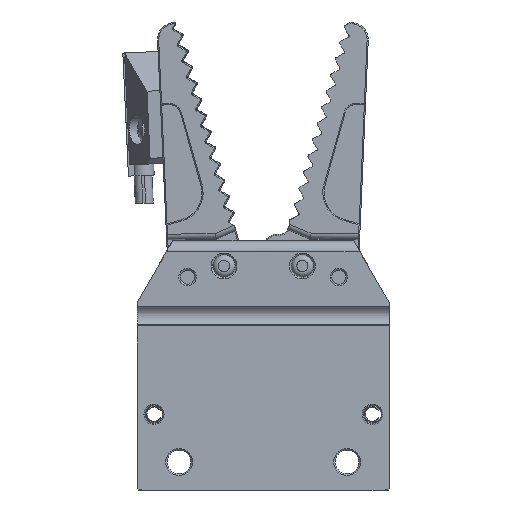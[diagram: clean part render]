
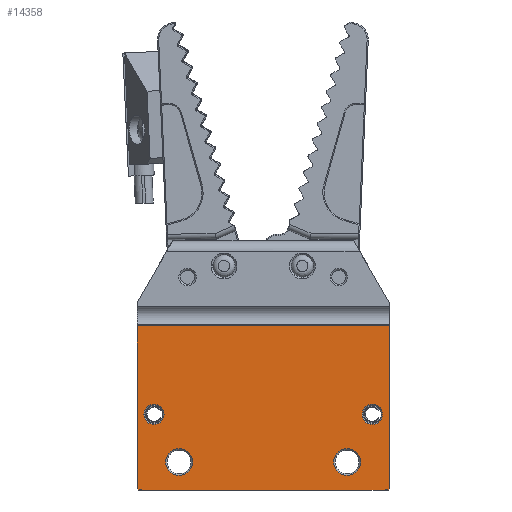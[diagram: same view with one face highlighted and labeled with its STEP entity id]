
A CAD part, front view. The second image highlights one B-rep face of the part: STEP entity #14358.
In plain terms, the highlighted planar face has unit normal (0, -1, 0).
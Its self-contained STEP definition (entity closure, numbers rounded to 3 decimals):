
#12268=CIRCLE('',#37363,2.4);
#12269=CIRCLE('',#37365,2.4);
#12270=CIRCLE('',#37367,1.8);
#12272=CIRCLE('',#37370,1.8);
#13456=FACE_BOUND('',#17814,.T.);
#13457=FACE_BOUND('',#17815,.T.);
#13458=FACE_BOUND('',#17816,.T.);
#13459=FACE_BOUND('',#17817,.T.);
#13460=FACE_BOUND('',#17818,.T.);
#14358=ADVANCED_FACE('',(#13456,#13457,#13458,#13459,#13460),#15888,.F.);
#15888=PLANE('',#37379);
#17814=EDGE_LOOP('',(#20487,#20488,#20489,#20490,#20491,#20492));
#17815=EDGE_LOOP('',(#20493));
#17816=EDGE_LOOP('',(#20494));
#17817=EDGE_LOOP('',(#20495));
#17818=EDGE_LOOP('',(#20496));
#20487=ORIENTED_EDGE('',*,*,#29837,.F.);
#20488=ORIENTED_EDGE('',*,*,#29857,.F.);
#20489=ORIENTED_EDGE('',*,*,#29855,.F.);
#20490=ORIENTED_EDGE('',*,*,#29853,.F.);
#20491=ORIENTED_EDGE('',*,*,#29844,.T.);
#20492=ORIENTED_EDGE('',*,*,#29858,.F.);
#20493=ORIENTED_EDGE('',*,*,#29851,.F.);
#20494=ORIENTED_EDGE('',*,*,#29849,.F.);
#20495=ORIENTED_EDGE('',*,*,#29848,.F.);
#20496=ORIENTED_EDGE('',*,*,#29847,.F.);
#27360=VERTEX_POINT('',#49054);
#27362=VERTEX_POINT('',#49057);
#27366=VERTEX_POINT('',#49070);
#27367=VERTEX_POINT('',#49071);
#27368=VERTEX_POINT('',#49076);
#27369=VERTEX_POINT('',#49079);
#27370=VERTEX_POINT('',#49082);
#27371=VERTEX_POINT('',#49086);
#27372=VERTEX_POINT('',#49090);
#27373=VERTEX_POINT('',#49094);
#29837=EDGE_CURVE('',#27360,#27362,#33259,.T.);
#29844=EDGE_CURVE('',#27366,#27367,#33266,.T.);
#29847=EDGE_CURVE('',#27368,#27368,#12268,.T.);
#29848=EDGE_CURVE('',#27369,#27369,#12269,.T.);
#29849=EDGE_CURVE('',#27370,#27370,#12270,.T.);
#29851=EDGE_CURVE('',#27371,#27371,#12272,.T.);
#29853=EDGE_CURVE('',#27366,#27372,#33269,.T.);
#29855=EDGE_CURVE('',#27372,#27373,#33270,.T.);
#29857=EDGE_CURVE('',#27373,#27360,#33271,.T.);
#29858=EDGE_CURVE('',#27362,#27367,#33272,.T.);
#33259=LINE('',#49056,#35293);
#33266=LINE('',#49069,#35300);
#33269=LINE('',#49089,#35303);
#33270=LINE('',#49093,#35304);
#33271=LINE('',#49097,#35305);
#33272=LINE('',#49099,#35306);
#35293=VECTOR('',#40634,1.);
#35300=VECTOR('',#40645,1.);
#35303=VECTOR('',#40670,1.);
#35304=VECTOR('',#40675,1.);
#35305=VECTOR('',#40680,1.);
#35306=VECTOR('',#40683,1.);
#37363=AXIS2_PLACEMENT_3D('',#49075,#40650,#40651);
#37365=AXIS2_PLACEMENT_3D('',#49078,#40654,#40655);
#37367=AXIS2_PLACEMENT_3D('',#49081,#40658,#40659);
#37370=AXIS2_PLACEMENT_3D('',#49085,#40664,#40665);
#37379=AXIS2_PLACEMENT_3D('',#49101,#40686,#40687);
#40634=DIRECTION('',(-0.707,0.,-0.707));
#40645=DIRECTION('',(0.707,0.,-0.707));
#40650=DIRECTION('',(0.,-1.,0.));
#40651=DIRECTION('',(0.,0.,1.));
#40654=DIRECTION('',(0.,-1.,0.));
#40655=DIRECTION('',(0.,0.,1.));
#40658=DIRECTION('',(0.,-1.,0.));
#40659=DIRECTION('',(0.,0.,1.));
#40664=DIRECTION('',(0.,-1.,0.));
#40665=DIRECTION('',(0.,0.,1.));
#40670=DIRECTION('',(0.,0.,1.));
#40675=DIRECTION('',(1.,0.,0.));
#40680=DIRECTION('',(0.,0.,-1.));
#40683=DIRECTION('',(-1.,0.,0.));
#40686=DIRECTION('',(0.,1.,0.));
#40687=DIRECTION('',(-1.,0.,0.));
#49054=CARTESIAN_POINT('',(22.5,-12.5,-44.3));
#49056=CARTESIAN_POINT('',(22.5,-12.5,-44.3));
#49057=CARTESIAN_POINT('',(22.3,-12.5,-44.5));
#49069=CARTESIAN_POINT('',(-22.3,-12.5,-44.5));
#49070=CARTESIAN_POINT('',(-22.5,-12.5,-44.3));
#49071=CARTESIAN_POINT('',(-22.3,-12.5,-44.5));
#49075=CARTESIAN_POINT('',(15.,-12.5,-39.5));
#49076=CARTESIAN_POINT('',(15.,-12.5,-37.1));
#49078=CARTESIAN_POINT('',(-15.,-12.5,-39.5));
#49079=CARTESIAN_POINT('',(-15.,-12.5,-37.1));
#49081=CARTESIAN_POINT('',(19.5,-12.5,-31.));
#49082=CARTESIAN_POINT('',(19.5,-12.5,-29.2));
#49085=CARTESIAN_POINT('',(-19.5,-12.5,-31.));
#49086=CARTESIAN_POINT('',(-19.5,-12.5,-29.2));
#49089=CARTESIAN_POINT('',(-22.5,-12.5,-44.5));
#49090=CARTESIAN_POINT('',(-22.5,-12.5,-15.2));
#49093=CARTESIAN_POINT('',(22.5,-12.5,-15.2));
#49094=CARTESIAN_POINT('',(22.5,-12.5,-15.2));
#49097=CARTESIAN_POINT('',(22.5,-12.5,-44.5));
#49099=CARTESIAN_POINT('',(22.5,-12.5,-44.5));
#49101=CARTESIAN_POINT('',(22.5,-12.5,-44.5));
